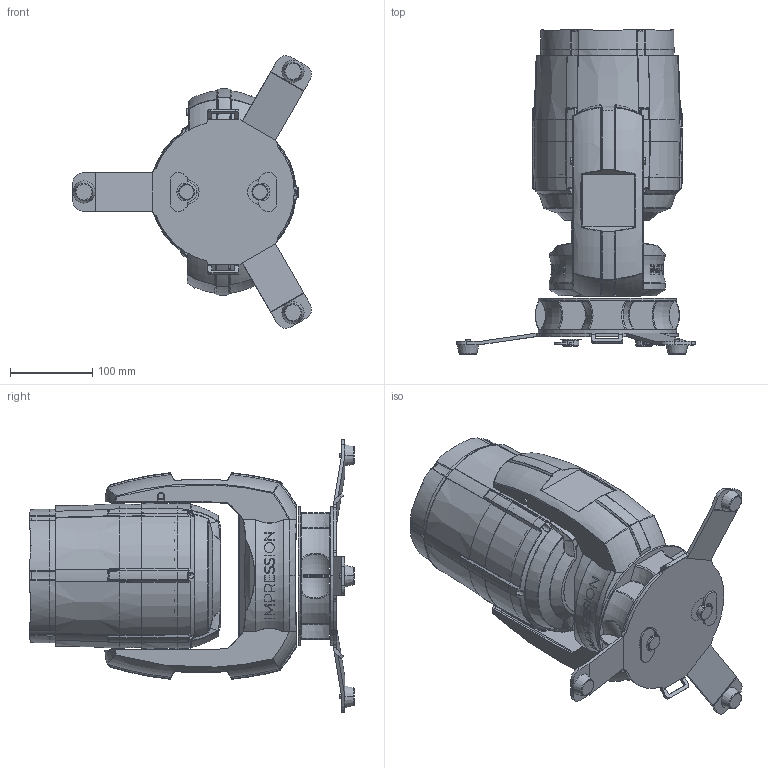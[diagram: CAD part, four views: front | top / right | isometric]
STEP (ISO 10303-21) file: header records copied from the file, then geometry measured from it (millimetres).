
FILE_DESCRIPTION((''),'2;1');
FILE_NAME('STANDARD-DARSTELLUNG_SW0006','2022-10-14T10:37:37',('Michael.Spatz'),(''),'CREO PARAMETRIC BY PTC INC, 2022014','CREO PARAMETRIC BY PTC INC, 2022014','');
FILE_SCHEMA(('AUTOMOTIVE_DESIGN { 1 0 10303 214 1 1 1 1 }'));
Products named in the file (1): STANDARD-DARSTELLUNG_SW0006
Bounding box: 289.91 x 393.35 x 330.66 mm (x, y, z)
Surface area: 736791.7 mm2 (no closed solid volume)
Topology: 0 solids, 302 shells, 2513 faces, 9754 edges, 7279 vertices
Faces by surface type: plane 692, cylinder 602, extrusion 565, bspline 277, cone 208, torus 164, sphere 5
Entity records: 174926 total; most frequent: CARTESIAN_POINT 90087, ORIENTED_EDGE 13543, DIRECTION 11393, EDGE_CURVE 9749, VERTEX_POINT 7279, B_SPLINE_CURVE_WITH_KNOTS 5019, AXIS2_PLACEMENT_3D 3846, VECTOR 3698
